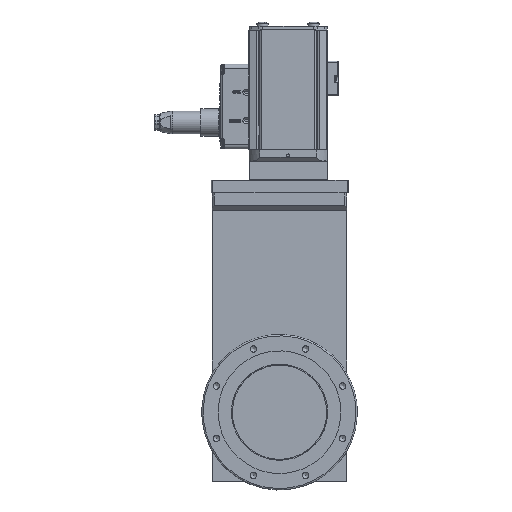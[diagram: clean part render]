
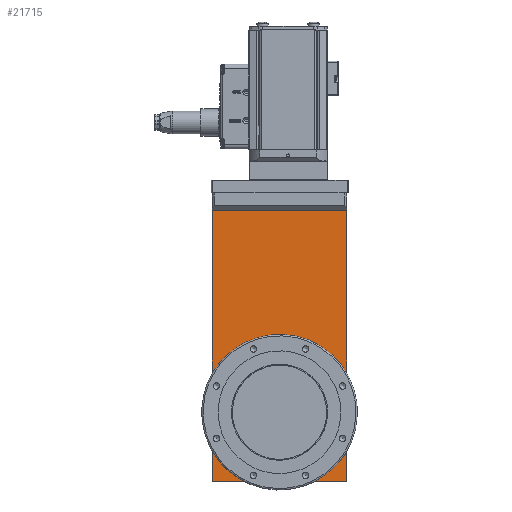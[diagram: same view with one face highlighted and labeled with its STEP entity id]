
A CAD part, top view. The second image highlights one B-rep face of the part: STEP entity #21715.
In plain terms, the highlighted planar face has unit normal (0, 0, 1).
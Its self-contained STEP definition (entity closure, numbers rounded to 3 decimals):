
#7185=LINE('',#80056,#11701);
#7192=LINE('',#80074,#11708);
#7193=LINE('',#80076,#11709);
#7198=LINE('',#80089,#11714);
#11701=VECTOR('',#65814,1.);
#11708=VECTOR('',#65829,1.);
#11709=VECTOR('',#65832,1.);
#11714=VECTOR('',#65845,1.);
#17281=PLANE('',#59193);
#21715=ADVANCED_FACE('',(#24975,#24976),#17281,.F.);
#24975=FACE_BOUND('',#27131,.T.);
#24976=FACE_BOUND('',#27132,.T.);
#27131=EDGE_LOOP('',(#32948));
#27132=EDGE_LOOP('',(#32949,#32950,#32951,#32952));
#32948=ORIENTED_EDGE('',*,*,#50947,.T.);
#32949=ORIENTED_EDGE('',*,*,#50931,.F.);
#32950=ORIENTED_EDGE('',*,*,#50940,.F.);
#32951=ORIENTED_EDGE('',*,*,#50948,.F.);
#32952=ORIENTED_EDGE('',*,*,#50941,.F.);
#45428=VERTEX_POINT('',#80055);
#45429=VERTEX_POINT('',#80057);
#45435=VERTEX_POINT('',#80073);
#45436=VERTEX_POINT('',#80077);
#45439=VERTEX_POINT('',#80088);
#50931=EDGE_CURVE('',#45428,#45429,#7185,.T.);
#50940=EDGE_CURVE('',#45435,#45428,#7192,.T.);
#50941=EDGE_CURVE('',#45429,#45436,#7193,.T.);
#50947=EDGE_CURVE('',#45439,#45439,#56891,.T.);
#50948=EDGE_CURVE('',#45436,#45435,#7198,.T.);
#56891=CIRCLE('',#59192,50.3);
#59192=AXIS2_PLACEMENT_3D('',#80087,#65843,#65844);
#59193=AXIS2_PLACEMENT_3D('',#80090,#65846,#65847);
#65814=DIRECTION('',(-1.,0.,0.));
#65829=DIRECTION('',(0.,-1.,0.));
#65832=DIRECTION('',(0.,1.,0.));
#65843=DIRECTION('',(0.,0.,-1.));
#65844=DIRECTION('',(-1.,0.,0.));
#65845=DIRECTION('',(1.,0.,0.));
#65846=DIRECTION('',(0.,0.,-1.));
#65847=DIRECTION('',(-1.,0.,0.));
#80055=CARTESIAN_POINT('',(71.15,-232.65,26.975));
#80056=CARTESIAN_POINT('',(0.,-232.65,26.975));
#80057=CARTESIAN_POINT('',(-71.15,-232.65,26.975));
#80073=CARTESIAN_POINT('',(71.15,73.05,26.975));
#80074=CARTESIAN_POINT('',(71.15,73.05,26.975));
#80076=CARTESIAN_POINT('',(-71.15,-234.1,26.975));
#80077=CARTESIAN_POINT('',(-71.15,73.05,26.975));
#80087=CARTESIAN_POINT('',(0.,0.,26.975));
#80088=CARTESIAN_POINT('',(-50.3,0.,26.975));
#80089=CARTESIAN_POINT('',(-71.15,73.05,26.975));
#80090=CARTESIAN_POINT('',(0.,0.,26.975));
